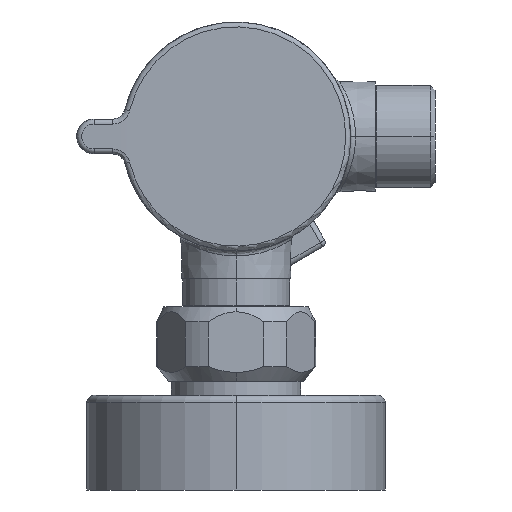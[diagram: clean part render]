
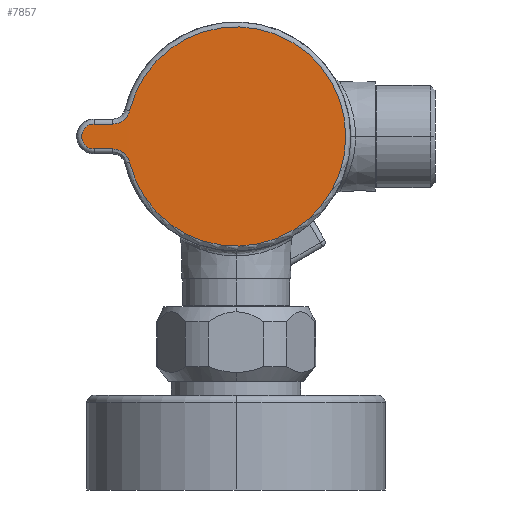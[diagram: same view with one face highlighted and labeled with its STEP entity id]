
A CAD part, left-side view. The second image highlights one B-rep face of the part: STEP entity #7857.
In plain terms, the highlighted spherical face has radius 1000 mm.
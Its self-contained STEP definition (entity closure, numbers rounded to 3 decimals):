
#3224=CARTESIAN_POINT('',(-149.579,24.801,2.503));
#3225=CARTESIAN_POINT('',(-149.582,24.674,2.503));
#3226=CARTESIAN_POINT('',(-149.588,24.42,2.516));
#3227=CARTESIAN_POINT('',(-149.598,24.036,2.58));
#3228=CARTESIAN_POINT('',(-149.606,23.659,2.686));
#3229=CARTESIAN_POINT('',(-149.614,23.295,2.835));
#3230=CARTESIAN_POINT('',(-149.622,22.95,3.023));
#3231=CARTESIAN_POINT('',(-149.628,22.63,3.247));
#3232=CARTESIAN_POINT('',(-149.634,22.337,3.505));
#3233=CARTESIAN_POINT('',(-149.639,22.073,3.796));
#3234=CARTESIAN_POINT('',(-149.642,21.843,4.115));
#3235=CARTESIAN_POINT('',(-149.645,21.651,4.456));
#3236=CARTESIAN_POINT('',(-149.647,21.499,4.814));
#3237=CARTESIAN_POINT('',(-149.647,21.426,5.058));
#3238=CARTESIAN_POINT('',(-149.647,21.396,5.182));
#3240=CARTESIAN_POINT('',(-149.644,-0.008,
0.));
#3241=DIRECTION('',(1.,0.,0.));
#3242=DIRECTION('',(0.,0.972,0.235));
#3243=AXIS2_PLACEMENT_3D('',#3240,#3241,#3242);
#3245=CARTESIAN_POINT('',(-149.647,21.396,
-5.181));
#3246=CARTESIAN_POINT('',(-149.647,21.426,-5.058));
#3247=CARTESIAN_POINT('',(-149.647,21.499,
-4.813));
#3248=CARTESIAN_POINT('',(-149.645,21.651,
-4.455));
#3249=CARTESIAN_POINT('',(-149.642,21.843,
-4.114));
#3250=CARTESIAN_POINT('',(-149.639,22.073,
-3.795));
#3251=CARTESIAN_POINT('',(-149.634,22.337,
-3.505));
#3252=CARTESIAN_POINT('',(-149.628,22.63,
-3.247));
#3253=CARTESIAN_POINT('',(-149.622,22.951,
-3.022));
#3254=CARTESIAN_POINT('',(-149.614,23.295,
-2.834));
#3255=CARTESIAN_POINT('',(-149.606,23.659,
-2.686));
#3256=CARTESIAN_POINT('',(-149.598,24.036,
-2.58));
#3257=CARTESIAN_POINT('',(-149.588,24.42,
-2.516));
#3258=CARTESIAN_POINT('',(-149.582,24.674,
-2.503));
#3259=CARTESIAN_POINT('',(-149.579,24.801,
-2.503));
#3261=CARTESIAN_POINT('',(850.114,0.154,
-2.503));
#3262=DIRECTION('',(0.,0.,-1.));
#3263=DIRECTION('',(-1.,0.025,0.));
#3264=AXIS2_PLACEMENT_3D('',#3261,#3262,#3263);
#3266=CARTESIAN_POINT('',(-149.481,28.52,
-2.502));
#3267=CARTESIAN_POINT('',(-149.478,28.622,
-2.503));
#3268=CARTESIAN_POINT('',(-149.472,28.822,
-2.491));
#3269=CARTESIAN_POINT('',(-149.463,29.124,
-2.435));
#3270=CARTESIAN_POINT('',(-149.455,29.415,
-2.344));
#3271=CARTESIAN_POINT('',(-149.447,29.694,
-2.218));
#3272=CARTESIAN_POINT('',(-149.44,29.954,
-2.059));
#3273=CARTESIAN_POINT('',(-149.433,30.194,
-1.869));
#3274=CARTESIAN_POINT('',(-149.427,30.409,
-1.652));
#3275=CARTESIAN_POINT('',(-149.422,30.595,
-1.41));
#3276=CARTESIAN_POINT('',(-149.417,30.751,
-1.147));
#3277=CARTESIAN_POINT('',(-149.414,30.874,
-0.868));
#3278=CARTESIAN_POINT('',(-149.411,30.962,
-0.575));
#3279=CARTESIAN_POINT('',(-149.41,31.014,
-0.274));
#3280=CARTESIAN_POINT('',(-149.409,31.029,
0.031));
#3281=CARTESIAN_POINT('',(-149.41,31.007,
0.336));
#3282=CARTESIAN_POINT('',(-149.412,30.947,
0.636));
#3283=CARTESIAN_POINT('',(-149.414,30.852,
0.926));
#3284=CARTESIAN_POINT('',(-149.418,30.722,1.203));
#3285=CARTESIAN_POINT('',(-149.423,30.56,1.462));
#3286=CARTESIAN_POINT('',(-149.428,30.367,1.699));
#3287=CARTESIAN_POINT('',(-149.434,30.147,1.91));
#3288=CARTESIAN_POINT('',(-149.441,29.902,2.094));
#3289=CARTESIAN_POINT('',(-149.449,29.638,2.246));
#3290=CARTESIAN_POINT('',(-149.457,29.357,2.366));
#3291=CARTESIAN_POINT('',(-149.465,29.061,2.45));
#3292=CARTESIAN_POINT('',(-149.473,28.772,2.495));
#3293=CARTESIAN_POINT('',(-149.478,28.602,2.502));
#3294=CARTESIAN_POINT('',(-149.481,28.521,2.502));
#3296=CARTESIAN_POINT('',(850.114,0.154,2.503));
#3297=DIRECTION('',(0.,0.,1.));
#3298=DIRECTION('',(-1.,0.028,0.));
#3299=AXIS2_PLACEMENT_3D('',#3296,#3297,#3298);
#3726=CARTESIAN_POINT('',(-149.647,21.396,5.182));
#3727=VERTEX_POINT('',#3726);
#3728=VERTEX_POINT('',#3224);
#3729=CARTESIAN_POINT('',(-149.647,21.396,
-5.182));
#3730=VERTEX_POINT('',#3729);
#3732=CARTESIAN_POINT('',(-149.579,24.801,
-2.503));
#3733=VERTEX_POINT('',#3732);
#3746=CARTESIAN_POINT('',(-149.481,28.519,
-2.503));
#3747=VERTEX_POINT('',#3746);
#3748=CARTESIAN_POINT('',(-149.48,28.522,2.503));
#3749=VERTEX_POINT('',#3748);
#7843=CARTESIAN_POINT('',(850.114,0.154,
0.));
#7844=DIRECTION('',(0.,0.,-1.));
#7845=DIRECTION('',(1.,0.023,0.));
#7846=AXIS2_PLACEMENT_3D('',#7843,#7844,#7845);
#7847=SPHERICAL_SURFACE('',#7846,1000.);
#7848=ORIENTED_EDGE('',*,*,#7837,.T.);
#7849=ORIENTED_EDGE('',*,*,#7497,.T.);
#7850=ORIENTED_EDGE('',*,*,#7556,.T.);
#7851=ORIENTED_EDGE('',*,*,#7571,.T.);
#7853=ORIENTED_EDGE('',*,*,#7852,.T.);
#7854=ORIENTED_EDGE('',*,*,#7779,.T.);
#7855=EDGE_LOOP('',(#7848,#7849,#7850,#7851,#7853,#7854));
#7856=FACE_OUTER_BOUND('',#7855,.F.);
#7857=ADVANCED_FACE('',(#7856),#7847,.T.);
#3239=B_SPLINE_CURVE_WITH_KNOTS('',3,(#3224,#3225,#3226,#3227,#3228,#3229,#3230,
#3231,#3232,#3233,#3234,#3235,#3236,#3237,#3238),.UNSPECIFIED.,.F.,.F.,(4,1,1,1,
1,1,1,1,1,1,1,1,4),(0.,0.083,0.167,0.25,
0.333,0.417,0.5,0.583,0.667,
0.75,0.833,0.917,1.),.UNSPECIFIED.);
#3244=CIRCLE('',#3243,22.022);
#3260=B_SPLINE_CURVE_WITH_KNOTS('',3,(#3245,#3246,#3247,#3248,#3249,#3250,#3251,
#3252,#3253,#3254,#3255,#3256,#3257,#3258,#3259),.UNSPECIFIED.,.F.,.F.,(4,1,1,1,
1,1,1,1,1,1,1,1,4),(0.,0.083,0.167,0.25,
0.333,0.417,0.5,0.583,0.667,
0.75,0.833,0.917,1.),.UNSPECIFIED.);
#3265=CIRCLE('',#3264,999.997);
#3295=B_SPLINE_CURVE_WITH_KNOTS('',3,(#3266,#3267,#3268,#3269,#3270,#3271,#3272,
#3273,#3274,#3275,#3276,#3277,#3278,#3279,#3280,#3281,#3282,#3283,#3284,#3285,
#3286,#3287,#3288,#3289,#3290,#3291,#3292,#3293,#3294),.UNSPECIFIED.,.F.,.F.,(4,
1,1,1,1,1,1,1,1,1,1,1,1,1,1,1,1,1,1,1,1,1,1,1,1,1,4),(0.,0.038,
0.077,0.115,0.154,0.192,
0.231,0.269,0.308,0.346,
0.385,0.423,0.462,0.5,0.538,
0.577,0.615,0.654,0.692,
0.731,0.769,0.808,0.846,
0.885,0.923,0.962,1.),.UNSPECIFIED.);
#3300=CIRCLE('',#3299,999.997);
#7497=EDGE_CURVE('',#3727,#3730,#3244,.T.);
#7556=EDGE_CURVE('',#3730,#3733,#3260,.T.);
#7571=EDGE_CURVE('',#3733,#3747,#3265,.T.);
#7779=EDGE_CURVE('',#3749,#3728,#3300,.T.);
#7837=EDGE_CURVE('',#3728,#3727,#3239,.T.);
#7852=EDGE_CURVE('',#3747,#3749,#3295,.T.);
